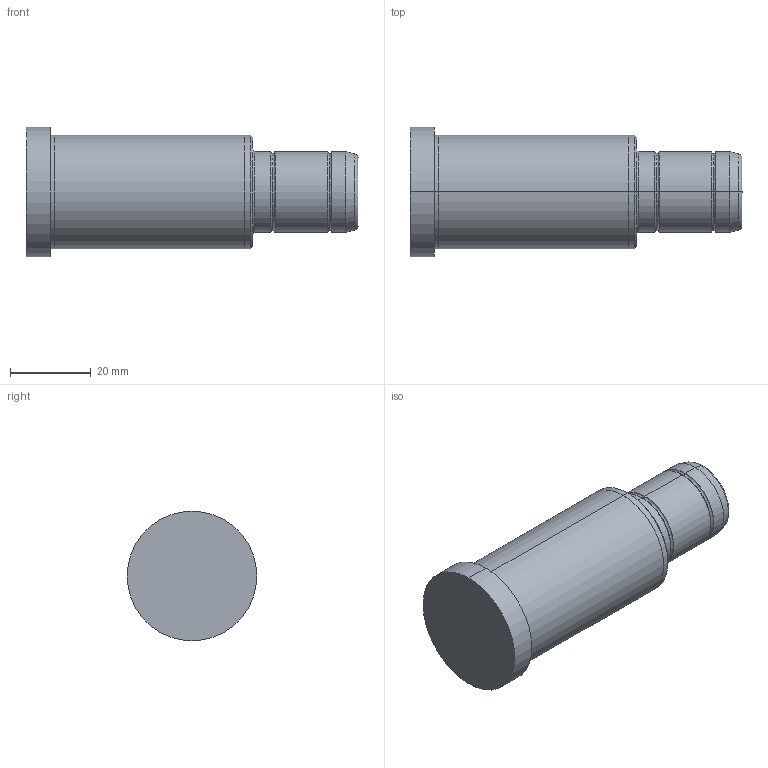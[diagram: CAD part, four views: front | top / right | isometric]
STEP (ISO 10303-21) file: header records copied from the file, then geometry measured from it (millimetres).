
FILE_DESCRIPTION( ( 'STEP AP203' ), '1' );
FILE_NAME( 'C:/Projects/D02 - 20x56x26.step', '2003-01-04T13:55:46', ( ' ' ), ( ' ' ), 'XStep 1.0', ' ', ' ' );
FILE_SCHEMA( ( 'CONFIG_CONTROL_DESIGN' ) );
Length unit declared in the file: metre
Products named in the file (1): 1
Bounding box: 82 x 32 x 32 mm (x, y, z)
Volume: 43686.7 mm3; surface area: 8211.2 mm2
Topology: 1 solids, 1 shells, 36 faces, 70 edges, 40 vertices
Faces by surface type: bspline 18, revolution 18
Entity records: 1127 total; most frequent: CARTESIAN_POINT 417, ORIENTED_EDGE 140, DIRECTION 118, EDGE_CURVE 70, AXIS2_PLACEMENT_3D 41, EDGE_LOOP 40, VERTEX_POINT 40, CIRCLE 40
